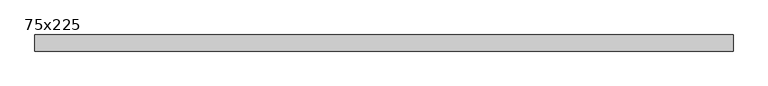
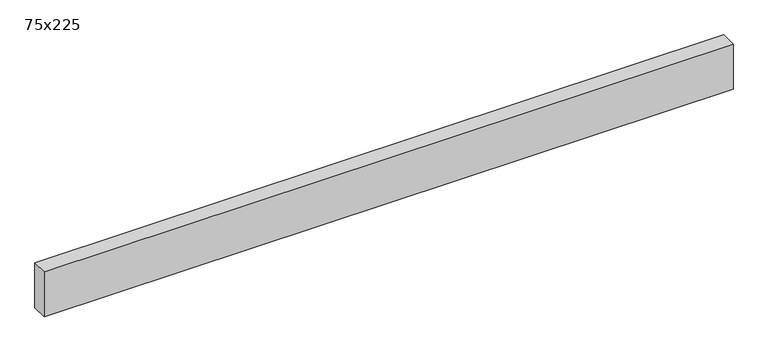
"""IFC4 building model written with IfcOpenShell, lengths in millimetres: beam geometry, Madrier : 75x225."""

from ifc_helpers import new_model, si_unit, frame, origin, place, context, project, spatial, polyline, outline, extrude, source, transform, mapped, element, save


def beam_75x225_548b8b28(model_context):
    return source(origin(), model_context, "Body", "SweptSolid", [
        extrude(outline(polyline([(1565.0, 37.5), (1565.0, -37.5), (-1675.0, -37.5), (-1675.0, 37.5), (1565.0, 37.5)])), frame((0.0, 0.0, -112.5), z_axis=(0.0, 0.0, 1.0), x_axis=(1.0, 0.0, 0.0)), (0.0, 0.0, 1.0), 225.0),
    ])


if __name__ == "__main__":
    model = new_model("IFC4")
    model_context = context("Model", 3, world=origin())
    ifc_project = project(units=[si_unit("LENGTHUNIT", "METRE", prefix="MILLI")], contexts=[model_context])
    site = spatial("IfcSite", under=ifc_project)
    building = spatial("IfcBuilding", under=site)
    placement = place(None, origin())
    beam_75x225_shape = beam_75x225_548b8b28(model_context)
    element("IfcBeam", 1, ObjectType="Madrier : 75x225", at=placement, inside=building, context=model_context, shape_type="MappedRepresentation", body=[
        mapped(beam_75x225_shape, transform((0.0, 0.0, 0.0), x_axis=(1.0, 0.0, 0.0), y_axis=(0.0, 1.0, 0.0), z_axis=(0.0, 0.0, 1.0))),
    ])
    save(model, "model.ifc")
